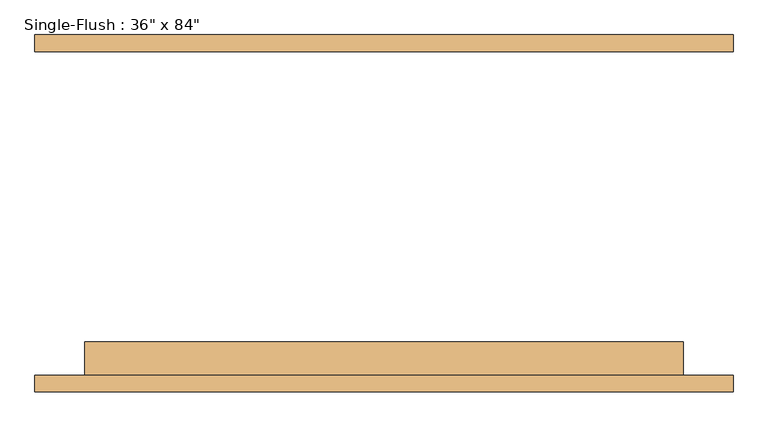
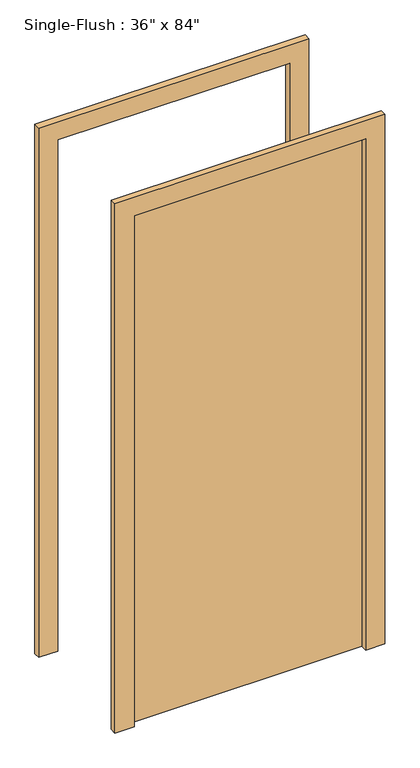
"""IFC4 building model written with IfcOpenShell, lengths in millimetres: door geometry."""

from ifc_helpers import new_model, si_unit, frame, origin, origin_with_axes, place, context, project, spatial, polyline, outline, extrude, source, transform, mapped, element, save


def door_7d4dd929(model_context):
    return source(origin(), model_context, "Body", "SweptSolid", [
        extrude(outline(polyline([(2209.8, -533.4), (0.0, -533.4), (0.0, -457.2), (2133.6, -457.2), (2133.6, 457.2), (0.0, 457.2), (0.0, 533.4), (2209.8, 533.4), (2209.8, -533.4)])), frame((0.0, -273.05, 0.0), z_axis=(0.0, 1.0, 0.0), x_axis=(0.0, 0.0, 1.0)), (0.0, 0.0, 1.0), 25.4),
        extrude(outline(polyline([(2209.8, 533.4), (2209.8, -533.4), (0.0, -533.4), (0.0, -457.2), (2133.6, -457.2), (2133.6, 457.2), (0.0, 457.2), (0.0, 533.4), (2209.8, 533.4)])), frame((0.0, 247.65, 0.0), z_axis=(0.0, 1.0, 0.0), x_axis=(0.0, 0.0, 1.0)), (0.0, 0.0, 1.0), 25.4),
        extrude(outline(polyline([(457.2, -196.85), (457.2, -247.65), (-457.2, -247.65), (-457.2, -196.85), (457.2, -196.85)])), origin_with_axes(), (0.0, 0.0, 1.0), 2133.6),
    ])


if __name__ == "__main__":
    model = new_model("IFC4")
    model_context = context("Model", 3, world=origin())
    ifc_project = project(units=[si_unit("LENGTHUNIT", "METRE", prefix="MILLI")], contexts=[model_context])
    site = spatial("IfcSite", under=ifc_project)
    building = spatial("IfcBuilding", under=site)
    placement = place(None, origin())
    door_shape = door_7d4dd929(model_context)
    element("IfcDoor", 1, ObjectType="Single-Flush : 36\" x 84\"", at=placement, inside=building, context=model_context, shape_type="MappedRepresentation", body=[
        mapped(door_shape, transform((0.0, 0.0, 0.0), x_axis=(1.0, 0.0, 0.0), y_axis=(0.0, 1.0, 0.0), z_axis=(0.0, 0.0, 1.0))),
    ])
    save(model, "model.ifc")
